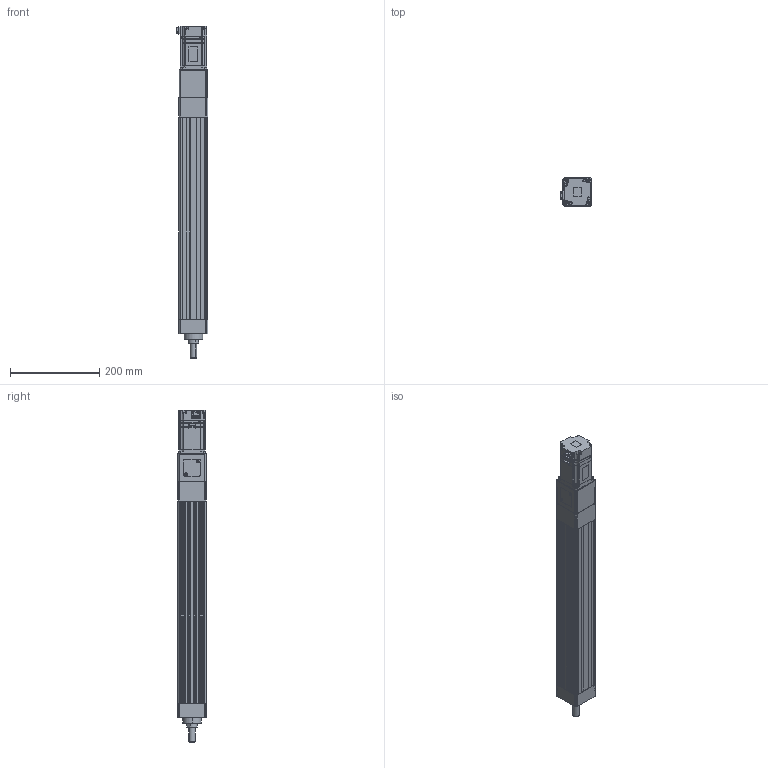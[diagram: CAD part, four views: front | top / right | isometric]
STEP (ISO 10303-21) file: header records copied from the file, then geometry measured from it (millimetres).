
FILE_DESCRIPTION (( 'STEP AP203' ), '1' );
FILE_NAME ('ANS065R-S350-05(10)(20)-W40-M.STEP', '2019-03-02T12:24:06', ( 'user' ), ( '' ), 'SwSTEP 2.0', 'SolidWorks 2013', '' );
FILE_SCHEMA (( 'CONFIG_CONTROL_DESIGN' ));
Length unit declared in the file: millimetre
Products named in the file (4): ANS065R S350 VER2; sgmjv_04a_a21; ANS065 ROD ST350-M; ANS065R-S350-05(10)(20)-W40-M
Assembly tree (3 placements, depth 2):
  ANS065R-S350-05(10)(20)-W40-M
    ANS065R S350 VER2
    sgmjv_04a_a21
    ANS065 ROD ST350-M
Bounding box: 71.3 x 65 x 744.6 mm (x, y, z)
Volume: 1799111.6 mm3; surface area: 417843.1 mm2
Topology: 3 solids, 7 shells, 1080 faces, 2853 edges, 1837 vertices
Faces by surface type: plane 636, cylinder 358, cone 86
Entity records: 33539 total; most frequent: CARTESIAN_POINT 5970, DIRECTION 5703, ORIENTED_EDGE 5658, EDGE_CURVE 2829, VECTOR 1999, LINE 1999, AXIS2_PLACEMENT_3D 1852, VERTEX_POINT 1837
